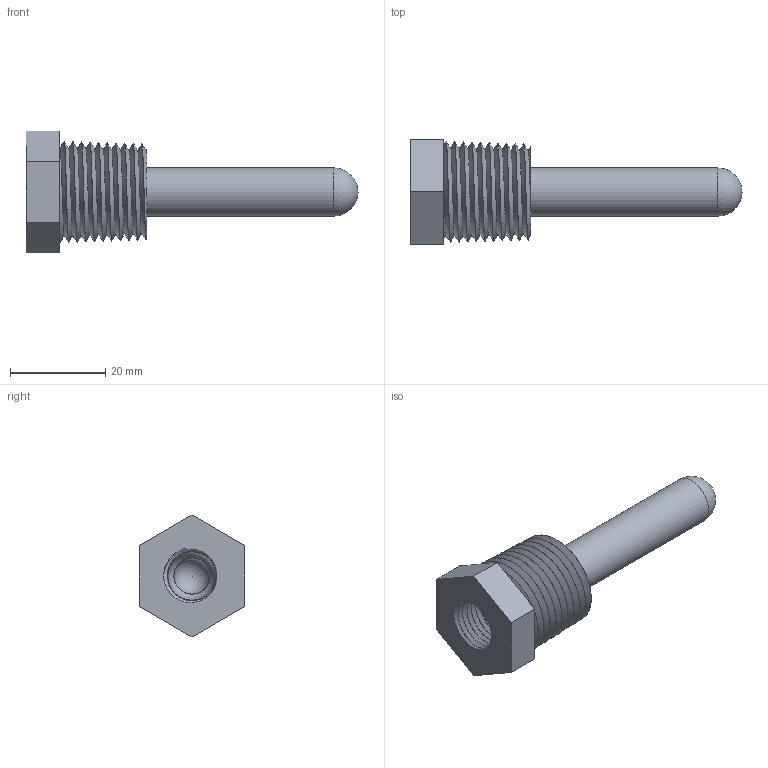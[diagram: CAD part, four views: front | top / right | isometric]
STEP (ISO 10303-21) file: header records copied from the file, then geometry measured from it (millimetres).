
FILE_DESCRIPTION(/* description */ (''),/* implementation_level */ '2;1');
FILE_NAME(/* name */ 'R:\Temp\J. Narvaez\IAN DRAWINGS\002 - Sensors\005 - MCS-WELL\14-002-1_2-B.stp',/* time_stamp */ '2022-11-14T09:46:12-05:00',/* author */ ('mjeter'),/* organization */ ('unknown'),/* preprocessor_version */ 'ST-DEVELOPER v19',/* originating_system */ 'Autodesk Inventor 2023',/* authorisation */ '');
FILE_SCHEMA (('AUTOMOTIVE_DESIGN { 1 0 10303 214 3 1 1 }'));
Length unit declared in the file: inch
Products named in the file (1): 14-002-1_2-B
Bounding box: 69.85 x 22.23 x 25.66 mm (x, y, z)
Volume: 8402.2 mm3; surface area: 6565.1 mm2
Topology: 1 solids, 1 shells, 32 faces, 89 edges, 60 vertices
Faces by surface type: cone 12, plane 11, bspline 4, cylinder 3, sphere 2
Full cylindrical faces by diameter (mm): 7.62 x1, 10.16 x1, 11.176 x1
Entity records: 6727 total; most frequent: CARTESIAN_POINT 5922, ORIENTED_EDGE 174, DIRECTION 126, EDGE_CURVE 87, VERTEX_POINT 60, AXIS2_PLACEMENT_3D 47, B_SPLINE_CURVE_WITH_KNOTS 37, EDGE_LOOP 35
